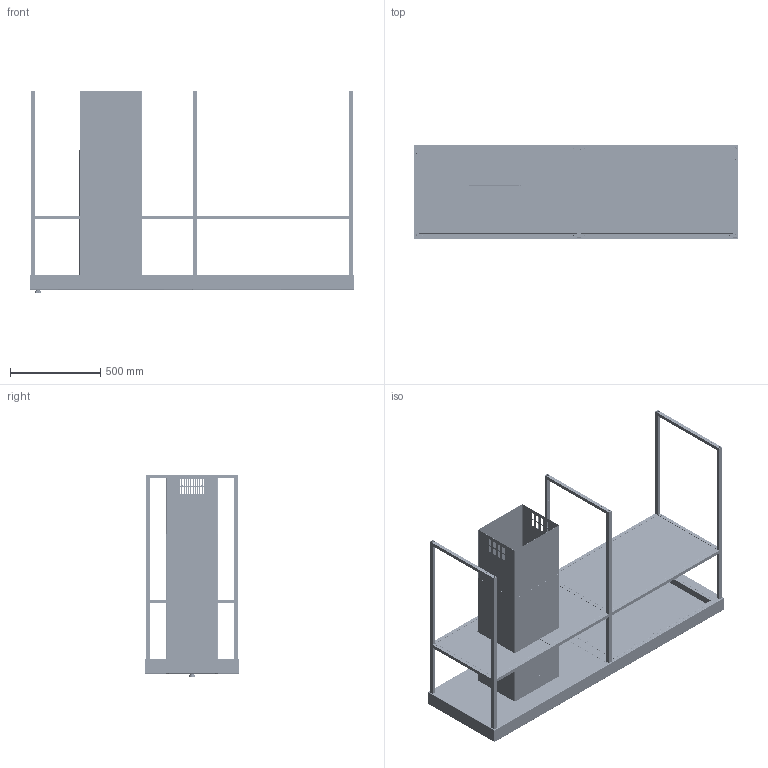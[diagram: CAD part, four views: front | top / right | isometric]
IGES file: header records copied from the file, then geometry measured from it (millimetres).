
Global section: file name: F:\_CONVERSIONE_CAD_2024_2025\03_3D kits new\07_Hoods\Solo Logo Piatto o 3D\3D001_Hoods_Mythos_FMY-F180\3D001_Hoods_Mythos_FMY-F180.igs; native system: Rhinoceros ( Jan  9 2024 ); preprocessor: Trout Lake IGES 012 Jan  9 2024; date: 240215.094607; units: millimetre
Bounding box: 1796 x 520 x 1120.54 mm (x, y, z)
Surface area: 13522949.7 mm2 (no closed solid volume)
Topology: 0 solids, 0 shells, 12326 faces, 70379 edges, 70009 vertices
Faces by surface type: bspline 12326
